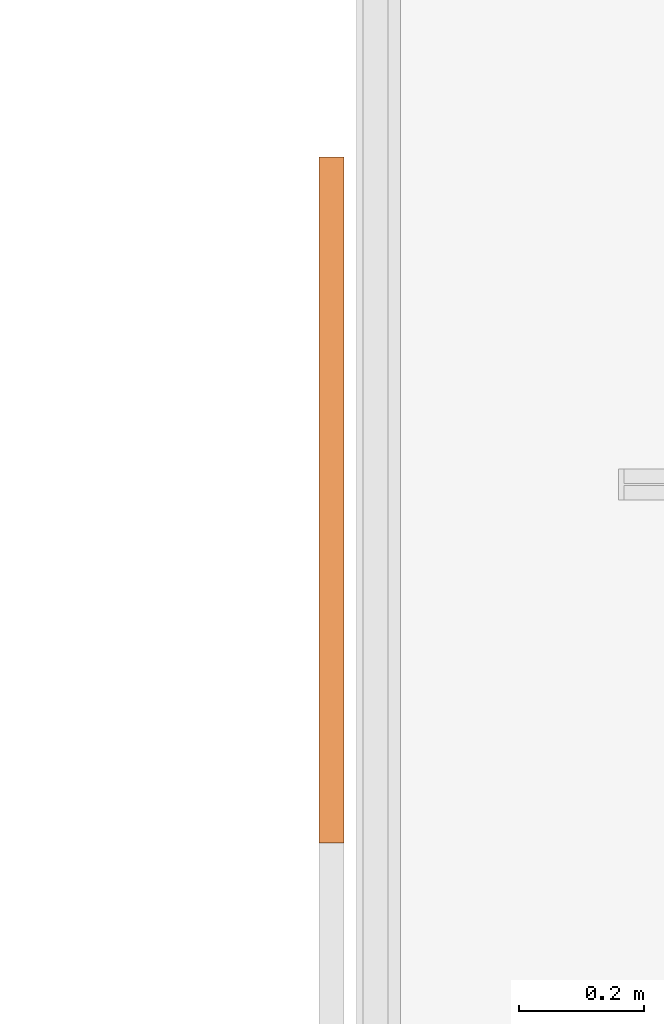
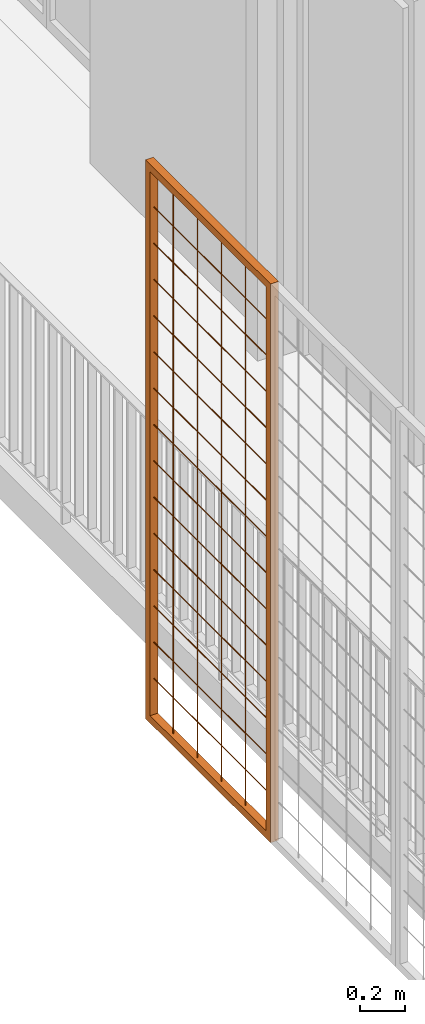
# One storey, part 42 of 51: 2 proxies.
"""IFC2X3 building model written with IfcOpenShell, lengths in metres."""

from ifc_helpers import new_model, entity, si_unit, converted_unit, derived_unit, direction, frame, frame_2d, origin, origin_2d_with_axis, place, context, subcontext, project, spatial, polyline, rectangle, outline, extrude, source, transform, mapped, material, type_object, type_shapes, element, save


model = new_model("IFC2X3")

# Units and contexts
model_context = context("Model", 3, precision=1e-05, world=origin(), true_north=direction((6.123031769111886e-17, 1.0)))
body_context = subcontext(model_context, "Body", "Model", "MODEL_VIEW")
ifc_project = project(units=[si_unit("LENGTHUNIT", "METRE"), si_unit("AREAUNIT", "SQUARE_METRE"), si_unit("VOLUMEUNIT", "CUBIC_METRE"), converted_unit("PLANEANGLEUNIT", "DEGREE", entity("IfcRatioMeasure", 0.017453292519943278), si_unit("PLANEANGLEUNIT", "RADIAN"), dimensions=[0, 0, 0, 0, 0, 0, 0]), si_unit("MASSUNIT", "GRAM", prefix="KILO"), derived_unit("MASSDENSITYUNIT", [(si_unit("MASSUNIT", "GRAM", prefix="KILO"), 1), (si_unit("LENGTHUNIT", "METRE"), -3)]), derived_unit("MOMENTOFINERTIAUNIT", [(si_unit("LENGTHUNIT", "METRE"), 4)]), si_unit("TIMEUNIT", "SECOND"), si_unit("FREQUENCYUNIT", "HERTZ"), si_unit("THERMODYNAMICTEMPERATUREUNIT", "DEGREE_CELSIUS"), derived_unit("THERMALTRANSMITTANCEUNIT", [(si_unit("MASSUNIT", "GRAM", prefix="KILO"), 1), (si_unit("THERMODYNAMICTEMPERATUREUNIT", "KELVIN"), -1), (si_unit("TIMEUNIT", "SECOND"), -3)]), derived_unit("THERMALCONDUCTANCEUNIT", [(si_unit("MASSUNIT", "GRAM", prefix="KILO"), 1), (si_unit("LENGTHUNIT", "METRE"), 1), (si_unit("THERMODYNAMICTEMPERATUREUNIT", "KELVIN"), -1), (si_unit("TIMEUNIT", "SECOND"), -3)]), derived_unit("VOLUMETRICFLOWRATEUNIT", [(si_unit("LENGTHUNIT", "METRE"), 3), (si_unit("TIMEUNIT", "SECOND"), -1)]), derived_unit("MASSFLOWRATEUNIT", [(si_unit("MASSUNIT", "GRAM", prefix="KILO"), 1), (si_unit("TIMEUNIT", "SECOND"), -1)]), derived_unit("ROTATIONALFREQUENCYUNIT", [(si_unit("TIMEUNIT", "SECOND"), -1)]), si_unit("ELECTRICCURRENTUNIT", "AMPERE"), si_unit("ELECTRICVOLTAGEUNIT", "VOLT"), si_unit("POWERUNIT", "WATT"), si_unit("FORCEUNIT", "NEWTON", prefix="KILO"), si_unit("ILLUMINANCEUNIT", "LUX"), si_unit("LUMINOUSFLUXUNIT", "LUMEN"), si_unit("LUMINOUSINTENSITYUNIT", "CANDELA"), derived_unit("USERDEFINED", [(si_unit("MASSUNIT", "GRAM", prefix="KILO"), -1), (si_unit("LENGTHUNIT", "METRE"), -2), (si_unit("TIMEUNIT", "SECOND"), 3), (si_unit("LUMINOUSFLUXUNIT", "LUMEN"), 1)]), derived_unit("USERDEFINED", [(si_unit("MASSUNIT", "GRAM", prefix="KILO"), 1), (si_unit("LENGTHUNIT", "METRE"), 3), (si_unit("TIMEUNIT", "SECOND"), -3), (si_unit("ELECTRICCURRENTUNIT", "AMPERE"), -2)]), derived_unit("USERDEFINED", [(si_unit("LENGTHUNIT", "METRE"), 2), (si_unit("TIMEUNIT", "SECOND"), -2)]), derived_unit("SOUNDPOWERUNIT", [(si_unit("MASSUNIT", "GRAM", prefix="KILO"), 1), (si_unit("LENGTHUNIT", "METRE"), 2), (si_unit("TIMEUNIT", "SECOND"), -3)]), derived_unit("SOUNDPRESSUREUNIT", [(si_unit("MASSUNIT", "GRAM", prefix="KILO"), 1), (si_unit("LENGTHUNIT", "METRE"), -1), (si_unit("TIMEUNIT", "SECOND"), -2)]), derived_unit("LINEARVELOCITYUNIT", [(si_unit("LENGTHUNIT", "METRE"), 1), (si_unit("TIMEUNIT", "SECOND"), -1)]), si_unit("PRESSUREUNIT", "PASCAL"), derived_unit("USERDEFINED", [(si_unit("LENGTHUNIT", "METRE"), -2), (si_unit("MASSUNIT", "GRAM", prefix="KILO"), 1), (si_unit("TIMEUNIT", "SECOND"), -2)]), derived_unit("LINEARFORCEUNIT", [(si_unit("MASSUNIT", "GRAM", prefix="KILO"), 1), (si_unit("LENGTHUNIT", "METRE"), 1), (si_unit("TIMEUNIT", "SECOND"), -2), (si_unit("LENGTHUNIT", "METRE"), -1)]), derived_unit("PLANARFORCEUNIT", [(si_unit("MASSUNIT", "GRAM", prefix="KILO"), 1), (si_unit("LENGTHUNIT", "METRE"), 1), (si_unit("TIMEUNIT", "SECOND"), -2), (si_unit("LENGTHUNIT", "METRE"), -2)]), derived_unit("SPECIFICHEATCAPACITYUNIT", [(si_unit("LENGTHUNIT", "METRE"), 2), (si_unit("TIMEUNIT", "SECOND"), -2), (si_unit("THERMODYNAMICTEMPERATUREUNIT", "KELVIN"), -1)]), derived_unit("VAPORPERMEABILITYUNIT", [(si_unit("TIMEUNIT", "SECOND"), 1), (si_unit("LENGTHUNIT", "METRE"), -1)]), derived_unit("DYNAMICVISCOSITYUNIT", [(si_unit("MASSUNIT", "GRAM", prefix="KILO"), 1), (si_unit("LENGTHUNIT", "METRE"), -1), (si_unit("TIMEUNIT", "SECOND"), -1)]), derived_unit("THERMALEXPANSIONCOEFFICIENTUNIT", [(si_unit("THERMODYNAMICTEMPERATUREUNIT", "KELVIN"), -1)])], contexts=[model_context])

# Site, building, storey
site_placement = place(None, origin())
site = spatial("IfcSite", under=ifc_project, at=site_placement, Name="Default", CompositionType="ELEMENT")
building_placement = place(site_placement, origin())
building = spatial("IfcBuilding", under=site, at=building_placement, CompositionType="ELEMENT")
storey_placement = place(building_placement, frame((0.0, 0.0, 3.06)))
storey = spatial("IfcBuildingStorey", under=building, at=storey_placement, Name="ÉTAGE", CompositionType="ELEMENT", Elevation=3.06)

# Proxies
ifc_material = material(Name="Peinture - Gris foncé")
building_element_proxy_type_1 = type_object("IfcBuildingElementProxyType", Name="Symb-0003", PredefinedType="NOTDEFINED", material=ifc_material)
shared_shape_1 = source(origin(), body_context, "Body", "SweptSolid", [
    extrude(outline(polyline([(-0.0011785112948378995, -0.002357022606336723), (0.0, -0.0023570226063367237), (0.001767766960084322, -0.0017677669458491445), (0.002357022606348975, 0.0), (0.0023570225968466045, 0.0011785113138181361), (0.0011785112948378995, 0.002357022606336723), (0.0, 0.002357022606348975), (-0.001767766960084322, 0.0017677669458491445), (-0.0023570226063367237, 0.0), (-0.0023570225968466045, -0.0011785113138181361), (-0.0011785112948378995, -0.002357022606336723)])), frame((139.86075228, 17.0272095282, 6.7275), z_axis=(0.0, 1.0, 0.0), x_axis=(-0.7071067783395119, 0.0, -0.7071067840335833)), (0.0, 0.0, 1.0), 1.0200000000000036),
    extrude(outline(polyline([(-0.0011785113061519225, -0.0023570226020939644), (0.0, -0.002357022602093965), (0.0017677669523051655, -0.001767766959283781), (0.0023570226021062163, 0.0), (0.002357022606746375, 0.0011785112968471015), (0.0011785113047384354, 0.0023570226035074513), (0.0, 0.0023570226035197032), (-0.0017677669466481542, 0.0017677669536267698), (-0.002357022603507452, 0.0), (-0.0023570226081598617, -0.0011785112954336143), (-0.0011785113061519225, -0.0023570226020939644)])), frame((139.86075228, 17.0272095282, 6.532833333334), z_axis=(0.0, 1.0, 0.0), x_axis=(-0.7071067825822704, 0.0, -0.7071067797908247)), (0.0, 0.0, 1.0), 1.0200000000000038),
    extrude(outline(polyline([(-0.001178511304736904, -0.002357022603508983), (0.0, -0.002357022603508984), (0.0017677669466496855, -0.001767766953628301), (0.002357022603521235, 0.0), (0.0023570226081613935, 0.0011785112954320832), (0.0011785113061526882, 0.002357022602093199), (0.0, 0.002357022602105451), (-0.0017677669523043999, 0.0017677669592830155), (-0.0023570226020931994, 0.0), (-0.0023570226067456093, -0.0011785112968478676), (-0.001178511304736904, -0.002357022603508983)])), frame((139.86075228, 17.0272095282, 6.338166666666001), z_axis=(0.0, 1.0, 0.0), x_axis=(-0.7071067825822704, 0.0, -0.7071067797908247)), (0.0, 0.0, 1.0), 1.0200000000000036),
    extrude(outline(polyline([(-0.0011785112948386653, -0.0023570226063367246), (0.0, -0.0023570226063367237), (0.0017677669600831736, -0.001767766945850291), (0.002357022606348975, 0.0), (0.0023570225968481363, 0.001178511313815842), (0.0011785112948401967, 0.0023570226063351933), (0.0, 0.002357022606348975), (-0.001767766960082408, 0.0017677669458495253), (-0.0023570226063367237, 0.0), (-0.002357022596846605, -0.0011785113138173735), (-0.0011785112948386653, -0.0023570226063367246)])), frame((139.86075228, 17.0272095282, 6.1435), z_axis=(0.0, 1.0, 0.0), x_axis=(-0.7071067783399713, 0.0, -0.7071067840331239)), (0.0, 0.0, 1.0), 1.0200000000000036),
    extrude(outline(polyline([(-0.0011785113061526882, -0.002357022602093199), (0.0, -0.0023570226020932), (0.0017677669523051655, -0.001767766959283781), (0.002357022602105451, 0.0), (0.0023570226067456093, 0.0011785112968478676), (0.0011785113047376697, 0.002357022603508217), (0.0, 0.0023570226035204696), (-0.0017677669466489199, 0.0017677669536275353), (-0.002357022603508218, 0.0), (-0.0023570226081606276, -0.0011785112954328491), (-0.0011785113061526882, -0.002357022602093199)])), frame((139.86075228, 17.0272095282, 5.948833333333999), z_axis=(0.0, 1.0, 0.0), x_axis=(-0.7071067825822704, 0.0, -0.7071067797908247)), (0.0, 0.0, 1.0), 1.0200000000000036),
    extrude(outline(polyline([(-0.0011785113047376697, -0.002357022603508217), (0.0, -0.002357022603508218), (0.0017677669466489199, -0.0017677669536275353), (0.0023570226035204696, 0.0), (0.0023570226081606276, 0.0011785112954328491), (0.0011785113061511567, 0.0023570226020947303), (0.0, 0.0023570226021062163), (-0.0017677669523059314, 0.0017677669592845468), (-0.0023570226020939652, 0.0), (-0.0023570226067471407, -0.0011785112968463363), (-0.0011785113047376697, -0.002357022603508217)])), frame((139.86075228, 17.0272095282, 5.754166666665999), z_axis=(0.0, 1.0, 0.0), x_axis=(-0.7071067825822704, 0.0, -0.7071067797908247)), (0.0, 0.0, 1.0), 1.0200000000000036),
    extrude(outline(polyline([(-0.001178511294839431, -0.0023570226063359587), (0.0, -0.002357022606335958), (0.001767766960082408, -0.0017677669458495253), (0.0023570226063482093, 0.0), (0.0023570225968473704, 0.0011785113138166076), (0.001178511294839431, 0.0023570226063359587), (0.0, 0.0023570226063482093), (-0.001767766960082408, 0.0017677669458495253), (-0.002357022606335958, 0.0), (-0.0023570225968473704, -0.0011785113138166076), (-0.001178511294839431, -0.0023570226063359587)])), frame((139.86075228, 17.0272095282, 5.5595), z_axis=(0.0, 1.0, 0.0), x_axis=(-0.7071067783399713, 0.0, -0.7071067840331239)), (0.0, 0.0, 1.0), 1.0200000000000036),
    extrude(outline(polyline([(-0.0011785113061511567, -0.0023570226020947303), (0.0, -0.002357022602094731), (0.001767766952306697, -0.0017677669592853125), (0.002357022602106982, 0.0), (0.0023570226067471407, 0.0011785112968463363), (0.001178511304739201, 0.0023570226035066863), (0.0, 0.0023570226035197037), (-0.0017677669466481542, 0.0017677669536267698), (-0.002357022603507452, 0.0), (-0.0023570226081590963, -0.0011785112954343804), (-0.0011785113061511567, -0.0023570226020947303)])), frame((139.86075228, 17.0272095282, 5.364833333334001), z_axis=(0.0, 1.0, 0.0), x_axis=(-0.7071067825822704, 0.0, -0.7071067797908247)), (0.0, 0.0, 1.0), 1.0200000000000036),
    extrude(outline(polyline([(-0.001178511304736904, -0.002357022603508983), (0.0, -0.002357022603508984), (0.0017677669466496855, -0.001767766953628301), (0.002357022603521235, 0.0), (0.0023570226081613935, 0.0011785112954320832), (0.0011785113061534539, 0.002357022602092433), (0.0, 0.002357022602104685), (-0.0017677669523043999, 0.0017677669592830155), (-0.002357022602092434, 0.0), (-0.0023570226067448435, -0.0011785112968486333), (-0.001178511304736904, -0.002357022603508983)])), frame((139.86075228, 17.0272095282, 5.1701666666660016), z_axis=(0.0, 1.0, 0.0), x_axis=(-0.7071067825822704, 0.0, -0.7071067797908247)), (0.0, 0.0, 1.0), 1.0200000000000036),
    extrude(outline(polyline([(-0.001178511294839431, -0.0023570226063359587), (0.0, -0.002357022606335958), (0.001767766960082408, -0.0017677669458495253), (0.0023570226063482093, 0.0), (0.0023570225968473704, 0.0011785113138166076), (0.0011785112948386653, 0.0023570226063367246), (0.0, 0.0023570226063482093), (-0.0017677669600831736, 0.001767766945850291), (-0.002357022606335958, 0.0), (-0.0023570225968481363, -0.001178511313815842), (-0.001178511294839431, -0.0023570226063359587)])), frame((139.86075228, 17.0272095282, 4.975499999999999), z_axis=(0.0, 1.0, 0.0), x_axis=(-0.7071067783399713, 0.0, -0.7071067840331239)), (0.0, 0.0, 1.0), 1.0200000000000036),
    extrude(outline(polyline([(-0.0011785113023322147, -0.0023570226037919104), (0.0, -0.002357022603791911), (0.0017677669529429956, -0.0017677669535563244), (0.002357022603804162, 0.0), (0.002357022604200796, 0.0011785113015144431), (0.0011785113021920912, 0.002357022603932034), (0.0, 0.0023570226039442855), (-0.001767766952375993, 0.0017677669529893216), (-0.0023570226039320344, 0.0), (-0.0023570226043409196, -0.0011785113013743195), (-0.0011785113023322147, -0.0023570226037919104)])), frame((139.86075228, 17.0272095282, 4.780833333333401), z_axis=(0.0, 1.0, 0.0), x_axis=(-0.7071067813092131, 0.0, -0.7071067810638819)), (0.0, 0.0, 1.0), 1.0200000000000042),
    extrude(outline(polyline([(-0.0011785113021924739, -0.0023570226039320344), (0.0, -0.0023570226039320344), (0.0017677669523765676, -0.0017677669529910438), (0.002357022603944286, 0.0), (0.0023570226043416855, 0.0011785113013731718), (0.0011785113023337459, 0.002357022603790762), (0.0, 0.0023570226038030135), (-0.0017677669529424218, 0.0017677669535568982), (-0.0023570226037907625, 0.0), (-0.002357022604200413, -0.001178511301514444), (-0.0011785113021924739, -0.0023570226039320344)])), frame((139.86075228, 17.0272095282, 4.5861666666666), z_axis=(0.0, 1.0, 0.0), x_axis=(-0.7071067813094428, 0.0, -0.7071067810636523)), (0.0, 0.0, 1.0), 1.0200000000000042),
    extrude(outline(polyline([(-0.0011785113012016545, -0.0023570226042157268), (0.0, -0.002357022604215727), (0.001767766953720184, -0.0017677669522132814), (0.0023570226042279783, 0.0), (0.0023570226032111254, 0.0011785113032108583), (0.001178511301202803, 0.0023570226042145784), (0.0, 0.002357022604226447), (-0.0017677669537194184, 0.0017677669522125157), (-0.002357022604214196, 0.0), (-0.0023570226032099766, -0.0011785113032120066), (-0.0011785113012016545, -0.0023570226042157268)])), frame((139.86075228, 17.0272095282, 4.391500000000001), z_axis=(0.0, 1.0, 0.0), x_axis=(-0.707106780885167, 0.0, -0.707106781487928)), (0.0, 0.0, 1.0), 1.0200000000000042),
    extrude(outline(polyline([(-0.0011785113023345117, -0.0023570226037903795), (0.0, -0.0023570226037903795), (0.0017677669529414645, -0.0017677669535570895), (0.0023570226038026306, 0.0), (0.002357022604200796, 0.0011785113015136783), (0.001178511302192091, 0.0023570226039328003), (0.0, 0.002357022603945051), (-0.00176776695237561, 0.001767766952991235), (-0.0023570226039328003, 0.0), (-0.002357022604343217, -0.0011785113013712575), (-0.0011785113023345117, -0.0023570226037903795)])), frame((139.86075228, 17.0272095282, 4.196833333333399), z_axis=(0.0, 1.0, 0.0), x_axis=(-0.7071067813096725, 0.0, -0.7071067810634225)), (0.0, 0.0, 1.0), 1.0200000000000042),
    extrude(outline(polyline([(-0.001178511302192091, -0.002357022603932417), (0.0, -0.0023570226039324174), (0.0017677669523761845, -0.0017677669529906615), (0.0023570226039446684, 0.0), (0.0023570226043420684, 0.0011785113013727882), (0.0011785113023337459, 0.002357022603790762), (0.0, 0.0023570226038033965), (-0.001767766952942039, 0.001767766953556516), (-0.0023570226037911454, 0.0), (-0.002357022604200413, -0.0011785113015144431), (-0.001178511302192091, -0.002357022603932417)])), frame((139.86075228, 17.0272095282, 4.0021666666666), z_axis=(0.0, 1.0, 0.0), x_axis=(-0.7071067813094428, 0.0, -0.7071067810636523)), (0.0, 0.0, 1.0), 1.0200000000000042),
    extrude(rectangle(XDim=1.1000000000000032, YDim=0.039999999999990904, at=frame_2d((-1.0547118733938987e-15, 0.0), x_axis=(1.0, 0.0))), frame((139.86075227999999, 17.5372095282, 6.73), z_axis=(0.0, 0.0, 1.0), x_axis=(0.0, 1.0, 0.0)), (0.0, 0.0, 1.0), 0.03999999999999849),
    extrude(rectangle(XDim=1.1000000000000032, YDim=0.039999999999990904, at=frame_2d((-1.0547118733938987e-15, 0.0), x_axis=(1.0, 0.0))), frame((139.86075227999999, 17.5372095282, 3.7699999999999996), z_axis=(0.0, 0.0, 1.0), x_axis=(0.0, 1.0, 0.0)), (0.0, 0.0, 1.0), 0.04000000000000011),
    extrude(rectangle(XDim=0.0400000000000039, YDim=0.039999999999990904, at=origin_2d_with_axis()), frame((139.86075227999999, 17.007209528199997, 3.8099999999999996), z_axis=(0.0, 0.0, 1.0), x_axis=(0.0, 1.0, 0.0)), (0.0, 0.0, 1.0), 2.9200000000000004),
    extrude(rectangle(XDim=0.03999999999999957, YDim=0.039999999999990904, at=origin_2d_with_axis()), frame((139.86075227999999, 18.0672095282, 3.8099999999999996), z_axis=(0.0, 0.0, 1.0), x_axis=(0.0, 1.0, 0.0)), (0.0, 0.0, 1.0), 2.9200000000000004),
])
type_shapes(building_element_proxy_type_1, [shared_shape_1])
proxy_1_placement = place(storey_placement, frame((0.0, 0.0, -3.06)))
element("IfcBuildingElementProxy", 1, at=proxy_1_placement, inside=storey, type_object=building_element_proxy_type_1, material=ifc_material, Name="Symb-0003 285692:Symb-0003 285692", ObjectType="Symb-0003 285692:Symb-0003 285692", context=body_context, shape_type="MappedRepresentation", body=[
    mapped(shared_shape_1, transform((0.0, 0.0, 0.0), scale=1.0)),
])
building_element_proxy_type_2 = type_object("IfcBuildingElementProxyType", Name="Symb-0003", PredefinedType="NOTDEFINED", material=ifc_material)
shared_shape_2 = source(origin(), body_context, "Body", "SweptSolid", [
    extrude(outline(polyline([(-0.0011180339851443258, -0.002236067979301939), (0.0007453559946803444, -0.002236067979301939), (0.001863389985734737, -0.0018633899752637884), (0.0026087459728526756, -0.00037267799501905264), (0.002236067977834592, 0.0007453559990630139), (0.0011180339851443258, 0.002236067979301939), (-0.0007453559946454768, 0.0022360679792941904), (-0.0018633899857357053, 0.0018633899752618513), (-0.0026087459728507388, 0.0003726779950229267), (-0.0022360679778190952, -0.0007453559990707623), (-0.0011180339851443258, -0.002236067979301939)])), frame((139.86075228, 17.029709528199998, 3.81), z_axis=(0.0, 0.0, 1.0), x_axis=(-0.8944271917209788, -0.44721359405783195, 0.0)), (0.0, 0.0, 1.0), 2.9200000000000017),
    extrude(outline(polyline([(-0.0011180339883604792, -0.00223606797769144), (0.0007453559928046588, -0.0022360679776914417), (0.0018633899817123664, -0.0018633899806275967), (0.002608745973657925, -0.0003726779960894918), (0.0022360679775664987, 0.0007453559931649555), (0.0011180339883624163, 0.002236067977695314), (-0.0007453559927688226, 0.0022360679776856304), (-0.0018633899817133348, 0.0018633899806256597), (-0.002608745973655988, 0.000372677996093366), (-0.0022360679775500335, -0.0007453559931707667), (-0.0011180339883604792, -0.00223606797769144)])), frame((139.86075228, 17.2417095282, 3.81), z_axis=(0.0, 0.0, 1.0), x_axis=(-0.8944271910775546, -0.44721359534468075, 0.0)), (0.0, 0.0, 1.0), 2.92),
    extrude(outline(polyline([(-0.0011180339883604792, -0.00223606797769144), (0.0007453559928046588, -0.0022360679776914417), (0.0018633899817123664, -0.0018633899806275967), (0.002608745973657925, -0.0003726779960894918), (0.0022360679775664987, 0.0007453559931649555), (0.0011180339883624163, 0.002236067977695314), (-0.0007453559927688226, 0.0022360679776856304), (-0.0018633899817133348, 0.0018633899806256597), (-0.0026087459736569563, 0.0003726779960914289), (-0.0022360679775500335, -0.0007453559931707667), (-0.0011180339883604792, -0.00223606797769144)])), frame((139.86075228, 17.4537095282, 3.81), z_axis=(0.0, 0.0, 1.0), x_axis=(-0.8944271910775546, -0.44721359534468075, 0.0)), (0.0, 0.0, 1.0), 2.92),
    extrude(outline(polyline([(-0.0011180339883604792, -0.00223606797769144), (0.0007453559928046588, -0.0022360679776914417), (0.0018633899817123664, -0.0018633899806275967), (0.002608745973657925, -0.0003726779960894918), (0.0022360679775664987, 0.0007453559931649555), (0.0011180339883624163, 0.002236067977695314), (-0.0007453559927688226, 0.0022360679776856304), (-0.0018633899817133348, 0.0018633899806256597), (-0.0026087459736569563, 0.0003726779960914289), (-0.0022360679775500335, -0.0007453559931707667), (-0.0011180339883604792, -0.00223606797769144)])), frame((139.86075228, 17.6657095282, 3.81), z_axis=(0.0, 0.0, 1.0), x_axis=(-0.8944271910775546, -0.44721359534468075, 0.0)), (0.0, 0.0, 1.0), 2.92),
    extrude(outline(polyline([(-0.0011180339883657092, -0.0022360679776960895), (0.0007453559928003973, -0.0022360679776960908), (0.0018633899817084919, -0.0018633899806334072), (0.0026087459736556, -0.00037267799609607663), (0.0022360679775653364, 0.0007453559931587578), (0.0011180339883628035, 0.002236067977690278), (-0.0007453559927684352, 0.002236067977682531), (-0.0018633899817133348, 0.0018633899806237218), (-0.002608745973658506, 0.0003726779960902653), (-0.0022360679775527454, -0.0007453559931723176), (-0.0011180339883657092, -0.0022360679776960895)])), frame((139.86075228, 17.877709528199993, 3.81), z_axis=(0.0, 0.0, 1.0), x_axis=(-0.8944271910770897, -0.4472135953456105, 0.0)), (0.0, 0.0, 1.0), 2.92),
    extrude(rectangle(XDim=1.1000000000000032, YDim=0.039999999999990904, at=frame_2d((-1.0547118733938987e-15, 0.0), x_axis=(1.0, 0.0))), frame((139.86075227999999, 17.5372095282, 6.73), z_axis=(0.0, 0.0, 1.0), x_axis=(0.0, 1.0, 0.0)), (0.0, 0.0, 1.0), 0.03999999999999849),
    extrude(rectangle(XDim=1.1000000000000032, YDim=0.039999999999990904, at=frame_2d((-1.0547118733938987e-15, 0.0), x_axis=(1.0, 0.0))), frame((139.86075227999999, 17.5372095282, 3.7699999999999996), z_axis=(0.0, 0.0, 1.0), x_axis=(0.0, 1.0, 0.0)), (0.0, 0.0, 1.0), 0.04000000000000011),
    extrude(rectangle(XDim=0.0400000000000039, YDim=0.039999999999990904, at=origin_2d_with_axis()), frame((139.86075227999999, 17.007209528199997, 3.8099999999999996), z_axis=(0.0, 0.0, 1.0), x_axis=(0.0, 1.0, 0.0)), (0.0, 0.0, 1.0), 2.9200000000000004),
    extrude(rectangle(XDim=0.03999999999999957, YDim=0.039999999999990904, at=origin_2d_with_axis()), frame((139.86075227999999, 18.0672095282, 3.8099999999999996), z_axis=(0.0, 0.0, 1.0), x_axis=(0.0, 1.0, 0.0)), (0.0, 0.0, 1.0), 2.9200000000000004),
])
type_shapes(building_element_proxy_type_2, [shared_shape_2])
proxy_2_placement = place(storey_placement, frame((0.0, 0.0, -3.06)))
element("IfcBuildingElementProxy", 2, at=proxy_2_placement, inside=storey, type_object=building_element_proxy_type_2, material=ifc_material, Name="Symb-0003 464608:Symb-0003 464608", ObjectType="Symb-0003 464608:Symb-0003 464608", context=body_context, shape_type="MappedRepresentation", body=[
    mapped(shared_shape_2, transform((0.0, 0.0, 0.0), scale=1.0)),
])

save(model, "model.ifc")
